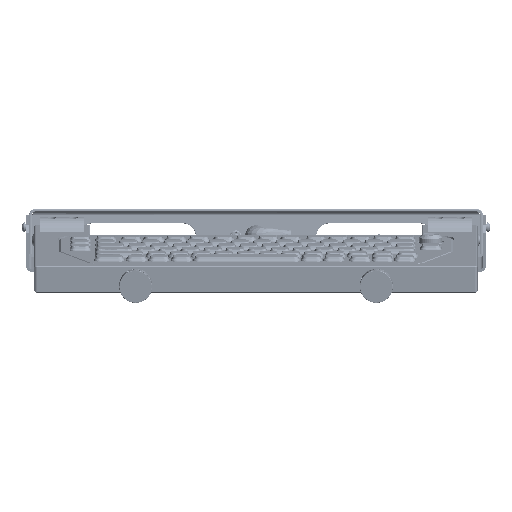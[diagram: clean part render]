
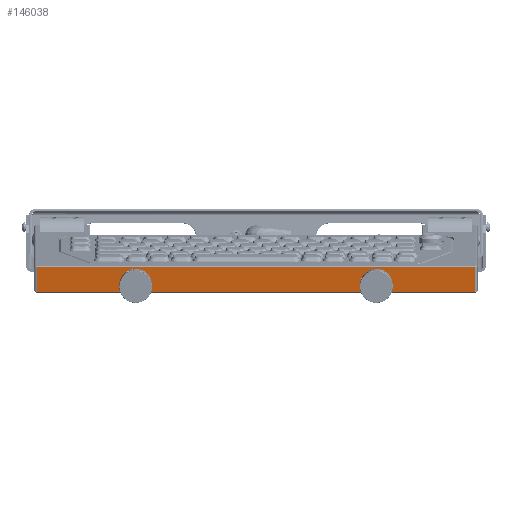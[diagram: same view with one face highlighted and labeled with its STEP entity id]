
A CAD part, top view. The second image highlights one B-rep face of the part: STEP entity #146038.
In plain terms, the highlighted planar face has unit normal (0, -0.174, 0.985) as drawn and (0, 0, -1) by its records, which use the part's own axes.
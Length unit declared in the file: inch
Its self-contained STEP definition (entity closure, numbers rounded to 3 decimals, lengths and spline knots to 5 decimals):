
#2446 = AXIS2_PLACEMENT_3D ( 'NONE', #95866, #232511, #174074 ) ;
#17800 = CIRCLE ( 'NONE', #224994, 0.07475 ) ;
#20198 = LINE ( 'NONE', #123187, #49205 ) ;
#20807 = CARTESIAN_POINT ( 'NONE',  ( 5., 0.03125, -2.1125 ) ) ;
#24995 = EDGE_CURVE ( 'NONE', #179552, #265827, #17800, .T. ) ;
#26584 = VERTEX_POINT ( 'NONE', #256468 ) ;
#35333 = CIRCLE ( 'NONE', #178606, 0.07475 ) ;
#44491 = VECTOR ( 'NONE', #183750, 39.37008 ) ;
#46964 = DIRECTION ( 'NONE',  ( 0., 1., 0. ) ) ;
#49205 = VECTOR ( 'NONE', #293494, 39.37008 ) ;
#56669 = ORIENTED_EDGE ( 'NONE', *, *, #162504, .T. ) ;
#69237 = LINE ( 'NONE', #172284, #404702 ) ;
#71040 = FACE_OUTER_BOUND ( 'NONE', #381138, .T. ) ;
#74703 = DIRECTION ( 'NONE',  ( -1., 0., 0. ) ) ;
#85856 = CIRCLE ( 'NONE', #365059, 0.07475 ) ;
#86127 = VERTEX_POINT ( 'NONE', #396218 ) ;
#91359 = AXIS2_PLACEMENT_3D ( 'NONE', #149809, #259426, #290840 ) ;
#95866 = CARTESIAN_POINT ( 'NONE',  ( 5., 0.625, -2.1125 ) ) ;
#108817 = EDGE_CURVE ( 'NONE', #86127, #428090, #227544, .T. ) ;
#111749 = DIRECTION ( 'NONE',  ( -1., 0., 0. ) ) ;
#112124 = LINE ( 'NONE', #351876, #44491 ) ;
#114874 = ORIENTED_EDGE ( 'NONE', *, *, #257418, .T. ) ;
#123187 = CARTESIAN_POINT ( 'NONE',  ( 5., 0.59375, -2.1125 ) ) ;
#125601 = VERTEX_POINT ( 'NONE', #340724 ) ;
#129374 = VERTEX_POINT ( 'NONE', #20807 ) ;
#146038 = ADVANCED_FACE ( 'NONE', ( #409457, #375829, #71040 ), #163081, .T. ) ;
#149809 = CARTESIAN_POINT ( 'NONE',  ( -2.75, 0.25, -2.1125 ) ) ;
#150548 = ORIENTED_EDGE ( 'NONE', *, *, #365040, .F. ) ;
#162504 = EDGE_CURVE ( 'NONE', #233209, #129374, #112124, .T. ) ;
#163081 = PLANE ( 'NONE',  #2446 ) ;
#172284 = CARTESIAN_POINT ( 'NONE',  ( -5., 0.03125, -2.1125 ) ) ;
#174074 = DIRECTION ( 'NONE',  ( -1., 0., 0. ) ) ;
#178606 = AXIS2_PLACEMENT_3D ( 'NONE', #320973, #412997, #379388 ) ;
#179552 = VERTEX_POINT ( 'NONE', #394268 ) ;
#183750 = DIRECTION ( 'NONE',  ( 0., -1., 0. ) ) ;
#201191 = CARTESIAN_POINT ( 'NONE',  ( 2.67525, 0.25, -2.1125 ) ) ;
#202571 = EDGE_LOOP ( 'NONE', ( #258917, #150548 ) ) ;
#217778 = CARTESIAN_POINT ( 'NONE',  ( -2.67525, 0.25, -2.1125 ) ) ;
#224994 = AXIS2_PLACEMENT_3D ( 'NONE', #292729, #326326, #321949 ) ;
#227544 = CIRCLE ( 'NONE', #91359, 0.07475 ) ;
#232511 = DIRECTION ( 'NONE',  ( 0., 0., -1. ) ) ;
#233209 = VERTEX_POINT ( 'NONE', #279521 ) ;
#235040 = VECTOR ( 'NONE', #46964, 39.37008 ) ;
#256468 = CARTESIAN_POINT ( 'NONE',  ( -5., 0.03125, -2.1125 ) ) ;
#257418 = EDGE_CURVE ( 'NONE', #129374, #26584, #69237, .T. ) ;
#258917 = ORIENTED_EDGE ( 'NONE', *, *, #108817, .F. ) ;
#259426 = DIRECTION ( 'NONE',  ( 0., 0., -1. ) ) ;
#265827 = VERTEX_POINT ( 'NONE', #201191 ) ;
#279521 = CARTESIAN_POINT ( 'NONE',  ( 5., 0.59375, -2.1125 ) ) ;
#285286 = DIRECTION ( 'NONE',  ( 0., 0., -1. ) ) ;
#290840 = DIRECTION ( 'NONE',  ( -1., 0., 0. ) ) ;
#292729 = CARTESIAN_POINT ( 'NONE',  ( 2.75, 0.25, -2.1125 ) ) ;
#293494 = DIRECTION ( 'NONE',  ( 1., 0., 0. ) ) ;
#320973 = CARTESIAN_POINT ( 'NONE',  ( 2.75, 0.25, -2.1125 ) ) ;
#321949 = DIRECTION ( 'NONE',  ( -1., 0., 0. ) ) ;
#326326 = DIRECTION ( 'NONE',  ( 0., 0., -1. ) ) ;
#340724 = CARTESIAN_POINT ( 'NONE',  ( -5., 0.59375, -2.1125 ) ) ;
#343746 = ORIENTED_EDGE ( 'NONE', *, *, #24995, .F. ) ;
#351876 = CARTESIAN_POINT ( 'NONE',  ( 5., 0.625, -2.1125 ) ) ;
#353925 = CARTESIAN_POINT ( 'NONE',  ( -5., 0.625, -2.1125 ) ) ;
#365040 = EDGE_CURVE ( 'NONE', #428090, #86127, #85856, .T. ) ;
#365059 = AXIS2_PLACEMENT_3D ( 'NONE', #417541, #285286, #74703 ) ;
#367712 = EDGE_CURVE ( 'NONE', #26584, #125601, #387564, .T. ) ;
#370647 = EDGE_CURVE ( 'NONE', #125601, #233209, #20198, .T. ) ;
#375829 = FACE_BOUND ( 'NONE', #202571, .T. ) ;
#379388 = DIRECTION ( 'NONE',  ( -1., 0., 0. ) ) ;
#381138 = EDGE_LOOP ( 'NONE', ( #412379, #428775, #56669, #114874 ) ) ;
#387564 = LINE ( 'NONE', #353925, #235040 ) ;
#390652 = EDGE_LOOP ( 'NONE', ( #415126, #343746 ) ) ;
#394268 = CARTESIAN_POINT ( 'NONE',  ( 2.82475, 0.25, -2.1125 ) ) ;
#396218 = CARTESIAN_POINT ( 'NONE',  ( -2.82475, 0.25, -2.1125 ) ) ;
#404702 = VECTOR ( 'NONE', #111749, 39.37008 ) ;
#409457 = FACE_BOUND ( 'NONE', #390652, .T. ) ;
#412379 = ORIENTED_EDGE ( 'NONE', *, *, #367712, .T. ) ;
#412997 = DIRECTION ( 'NONE',  ( 0., 0., -1. ) ) ;
#415126 = ORIENTED_EDGE ( 'NONE', *, *, #423248, .F. ) ;
#417541 = CARTESIAN_POINT ( 'NONE',  ( -2.75, 0.25, -2.1125 ) ) ;
#423248 = EDGE_CURVE ( 'NONE', #265827, #179552, #35333, .T. ) ;
#428090 = VERTEX_POINT ( 'NONE', #217778 ) ;
#428775 = ORIENTED_EDGE ( 'NONE', *, *, #370647, .T. ) ;
